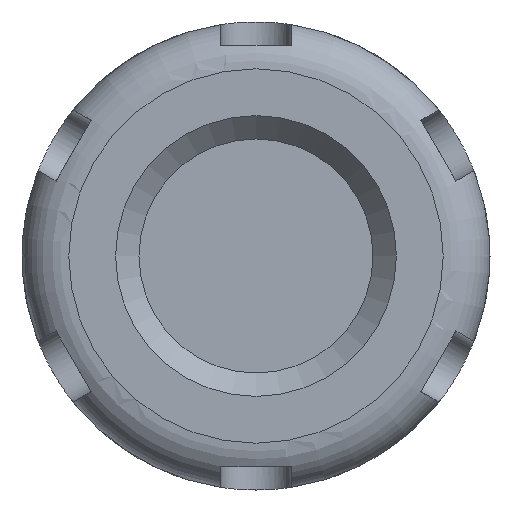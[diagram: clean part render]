
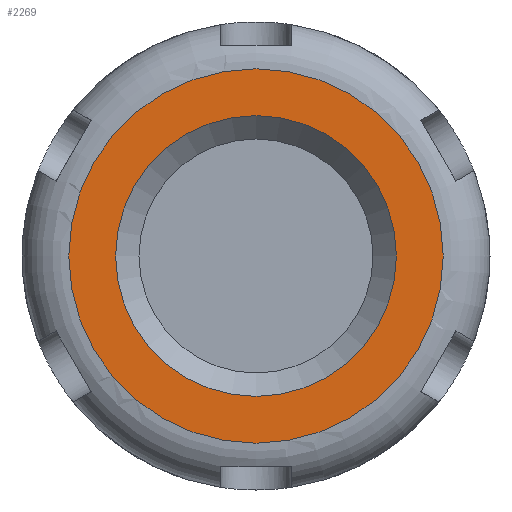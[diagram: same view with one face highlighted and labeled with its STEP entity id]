
A CAD part, left-side view. The second image highlights one B-rep face of the part: STEP entity #2269.
In plain terms, the highlighted planar face has unit normal (-1, 0, 0).
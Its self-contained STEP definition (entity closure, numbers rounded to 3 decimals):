
#2269=ADVANCED_FACE('',(#4439,#4440),#4441,.F.);
#4439=FACE_BOUND('',#6895,.T.);
#4440=FACE_OUTER_BOUND('',#6896,.T.);
#4441=PLANE('',#6897);
#6895=EDGE_LOOP('',(#12882));
#6896=EDGE_LOOP('',(#12883));
#6897=AXIS2_PLACEMENT_3D('',#12884,#12885,#12886);
#12882=ORIENTED_EDGE('',*,*,#15944,.F.);
#12883=ORIENTED_EDGE('',*,*,#15946,.T.);
#12884=CARTESIAN_POINT('',(-9.0,7.0,0.0));
#12885=DIRECTION('',(1.0,0.0,0.0));
#12886=DIRECTION('',(0.0,0.0,-1.0));
#15944=EDGE_CURVE('',#19653,#19653,#19654,.T.);
#15946=EDGE_CURVE('',#19656,#19656,#19657,.T.);
#19653=VERTEX_POINT('',#27355);
#19654=CIRCLE('',#27356,6.0);
#19656=VERTEX_POINT('',#27358);
#19657=CIRCLE('',#27359,8.0);
#27355=CARTESIAN_POINT('',(-9.0,0.0,6.0));
#27356=AXIS2_PLACEMENT_3D('',#31155,#31156,#31157);
#27358=CARTESIAN_POINT('',(-9.0,0.0,8.0));
#27359=AXIS2_PLACEMENT_3D('',#31158,#31159,#31160);
#31155=CARTESIAN_POINT('',(-9.0,0.0,0.0));
#31156=DIRECTION('',(-1.0,0.0,0.0));
#31157=DIRECTION('',(0.0,0.0,1.0));
#31158=CARTESIAN_POINT('',(-9.0,0.0,0.0));
#31159=DIRECTION('',(-1.0,0.0,0.0));
#31160=DIRECTION('',(0.0,0.0,1.0));
